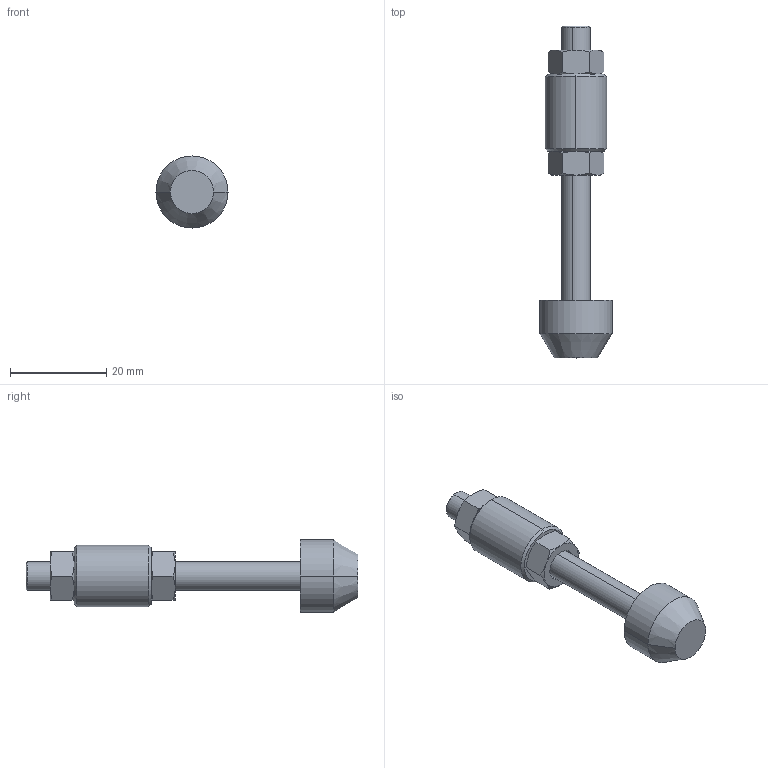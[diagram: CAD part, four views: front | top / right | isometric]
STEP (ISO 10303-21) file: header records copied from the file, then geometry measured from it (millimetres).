
FILE_DESCRIPTION (( 'STEP AP203' ), '1' );
FILE_NAME ('BRB-M6.STEP', '2016-07-25T18:03:42', ( 'Ricardo' ), ( '' ), 'SwSTEP 2.0', 'SolidWorks 2015', '' );
FILE_SCHEMA (( 'CONFIG_CONTROL_DESIGN' ));
Length unit declared in the file: millimetre
Products named in the file (5): 20.20008; BRB-M6; 20.20009; 20.20013; 11.50001
Assembly tree (5 placements, depth 2):
  BRB-M6
    20.20009
    20.20013
    11.50001  x2
    20.20008
Bounding box: 15 x 69 x 15 mm (x, y, z)
Volume: 5473.4 mm3; surface area: 3950.4 mm2
Topology: 5 solids, 5 shells, 84 faces, 174 edges, 99 vertices
Faces by surface type: cone 48, plane 22, cylinder 14
Entity records: 2121 total; most frequent: CARTESIAN_POINT 369, DIRECTION 278, ORIENTED_EDGE 232, AXIS2_PLACEMENT_3D 120, EDGE_CURVE 116, VERTEX_POINT 67, EDGE_LOOP 63, FACE_OUTER_BOUND 58
